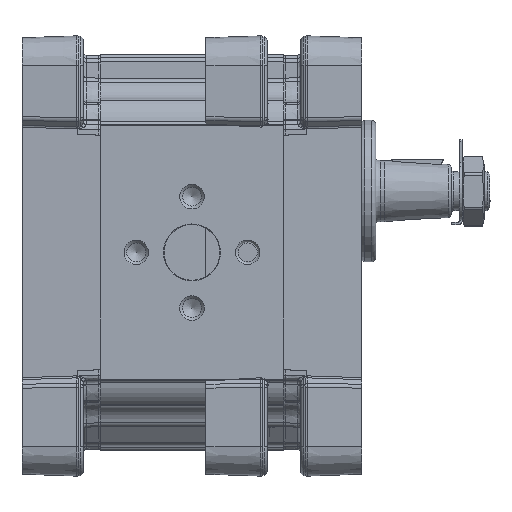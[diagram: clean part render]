
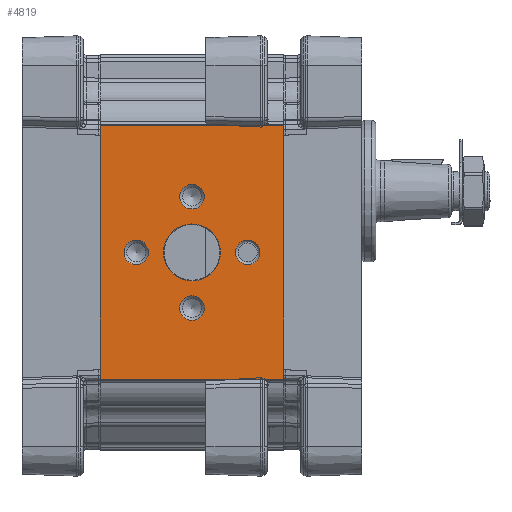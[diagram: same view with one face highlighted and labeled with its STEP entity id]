
A CAD part, left-side view. The second image highlights one B-rep face of the part: STEP entity #4819.
In plain terms, the highlighted planar face has unit normal (-1, 0, 0).
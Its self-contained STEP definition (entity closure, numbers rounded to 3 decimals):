
#4819 = ADVANCED_FACE( '', ( #10305, #10306, #10307, #10308, #10309, #10310 ), #10311, .T. );
#10305 = FACE_BOUND( '', #29488, .T. );
#10306 = FACE_BOUND( '', #29489, .T. );
#10307 = FACE_BOUND( '', #29490, .T. );
#10308 = FACE_BOUND( '', #29491, .T. );
#10309 = FACE_BOUND( '', #29492, .T. );
#10310 = FACE_OUTER_BOUND( '', #29493, .T. );
#10311 = PLANE( '', #29494 );
#29488 = EDGE_LOOP( '', ( #46741 ) );
#29489 = EDGE_LOOP( '', ( #46742 ) );
#29490 = EDGE_LOOP( '', ( #46743 ) );
#29491 = EDGE_LOOP( '', ( #46744 ) );
#29492 = EDGE_LOOP( '', ( #46745 ) );
#29493 = EDGE_LOOP( '', ( #46746, #46747, #46748, #46749 ) );
#29494 = AXIS2_PLACEMENT_3D( '', #46750, #46751, #46752 );
#46741 = ORIENTED_EDGE( '', *, *, #50885, .T. );
#46742 = ORIENTED_EDGE( '', *, *, #51093, .T. );
#46743 = ORIENTED_EDGE( '', *, *, #52271, .T. );
#46744 = ORIENTED_EDGE( '', *, *, #50643, .T. );
#46745 = ORIENTED_EDGE( '', *, *, #55992, .T. );
#46746 = ORIENTED_EDGE( '', *, *, #54508, .F. );
#46747 = ORIENTED_EDGE( '', *, *, #52551, .T. );
#46748 = ORIENTED_EDGE( '', *, *, #53853, .F. );
#46749 = ORIENTED_EDGE( '', *, *, #55993, .T. );
#46750 = CARTESIAN_POINT( '', ( -57.5, -155.571, -84.819 ) );
#46751 = DIRECTION( '', ( -1., 0., 0. ) );
#46752 = DIRECTION( '', ( 0., 0., -1. ) );
#50643 = EDGE_CURVE( '', #57009, #57009, #57010, .F. );
#50885 = EDGE_CURVE( '', #57435, #57435, #57436, .F. );
#51093 = EDGE_CURVE( '', #57803, #57803, #57804, .F. );
#52271 = EDGE_CURVE( '', #59771, #59771, #59772, .F. );
#52551 = EDGE_CURVE( '', #60220, #60217, #60221, .F. );
#53853 = EDGE_CURVE( '', #62163, #60217, #62165, .T. );
#54508 = EDGE_CURVE( '', #60220, #63061, #63062, .T. );
#55992 = EDGE_CURVE( '', #64872, #64872, #64873, .F. );
#55993 = EDGE_CURVE( '', #62163, #63061, #64874, .F. );
#57009 = VERTEX_POINT( '', #66306 );
#57010 = CIRCLE( '', #66307, 4.4 );
#57435 = VERTEX_POINT( '', #67299 );
#57436 = CIRCLE( '', #67300, 4.4 );
#57803 = VERTEX_POINT( '', #68152 );
#57804 = CIRCLE( '', #68153, 4.4 );
#59771 = VERTEX_POINT( '', #73104 );
#59772 = CIRCLE( '', #73105, 4.4 );
#60217 = VERTEX_POINT( '', #74207 );
#60220 = VERTEX_POINT( '', #74210 );
#60221 = LINE( '', #74211, #74212 );
#62163 = VERTEX_POINT( '', #78768 );
#62165 = LINE( '', #78770, #78771 );
#63061 = VERTEX_POINT( '', #80957 );
#63062 = LINE( '', #80958, #80959 );
#64872 = VERTEX_POINT( '', #85471 );
#64873 = CIRCLE( '', #85472, 10.2 );
#64874 = LINE( '', #85473, #85474 );
#66306 = CARTESIAN_POINT( '', ( -57.5, 13., -4.4 ) );
#66307 = AXIS2_PLACEMENT_3D( '', #87338, #87339, #87340 );
#67299 = CARTESIAN_POINT( '', ( -57.5, 33., 15.6 ) );
#67300 = AXIS2_PLACEMENT_3D( '', #87609, #87610, #87611 );
#68152 = CARTESIAN_POINT( '', ( -57.5, 53., -4.4 ) );
#68153 = AXIS2_PLACEMENT_3D( '', #87821, #87822, #87823 );
#73104 = CARTESIAN_POINT( '', ( -57.5, 33., -24.4 ) );
#73105 = AXIS2_PLACEMENT_3D( '', #89032, #89033, #89034 );
#74207 = CARTESIAN_POINT( '', ( -57.5, 0., -45.5 ) );
#74210 = CARTESIAN_POINT( '', ( -57.5, 66., -45.5 ) );
#74211 = CARTESIAN_POINT( '', ( -57.5, -155.571, -45.5 ) );
#74212 = VECTOR( '', #89323, 1000. );
#78768 = CARTESIAN_POINT( '', ( -57.5, 0., 45.5 ) );
#78770 = CARTESIAN_POINT( '', ( -57.5, 0., -44.978 ) );
#78771 = VECTOR( '', #90587, 1000. );
#80957 = CARTESIAN_POINT( '', ( -57.5, 66., 45.5 ) );
#80958 = CARTESIAN_POINT( '', ( -57.5, 66., -84.819 ) );
#80959 = VECTOR( '', #91323, 1000. );
#85471 = CARTESIAN_POINT( '', ( -57.5, 33., -10.2 ) );
#85472 = AXIS2_PLACEMENT_3D( '', #92589, #92590, #92591 );
#85473 = CARTESIAN_POINT( '', ( -57.5, -155.571, 45.5 ) );
#85474 = VECTOR( '', #92592, 1000. );
#87338 = CARTESIAN_POINT( '', ( -57.5, 13., 0. ) );
#87339 = DIRECTION( '', ( -1., 0., 0. ) );
#87340 = DIRECTION( '', ( 0., 0., -1. ) );
#87609 = CARTESIAN_POINT( '', ( -57.5, 33., 20. ) );
#87610 = DIRECTION( '', ( -1., 0., 0. ) );
#87611 = DIRECTION( '', ( 0., 0., -1. ) );
#87821 = CARTESIAN_POINT( '', ( -57.5, 53., 0. ) );
#87822 = DIRECTION( '', ( -1., 0., 0. ) );
#87823 = DIRECTION( '', ( 0., 0., -1. ) );
#89032 = CARTESIAN_POINT( '', ( -57.5, 33., -20. ) );
#89033 = DIRECTION( '', ( -1., 0., 0. ) );
#89034 = DIRECTION( '', ( 0., 0., -1. ) );
#89323 = DIRECTION( '', ( 0., 1., 0. ) );
#90587 = DIRECTION( '', ( 0., 0., -1. ) );
#91323 = DIRECTION( '', ( 0., 0., 1. ) );
#92589 = CARTESIAN_POINT( '', ( -57.5, 33., 0. ) );
#92590 = DIRECTION( '', ( -1., 0., 0. ) );
#92591 = DIRECTION( '', ( 0., 0., -1. ) );
#92592 = DIRECTION( '', ( 0., -1., 0. ) );
